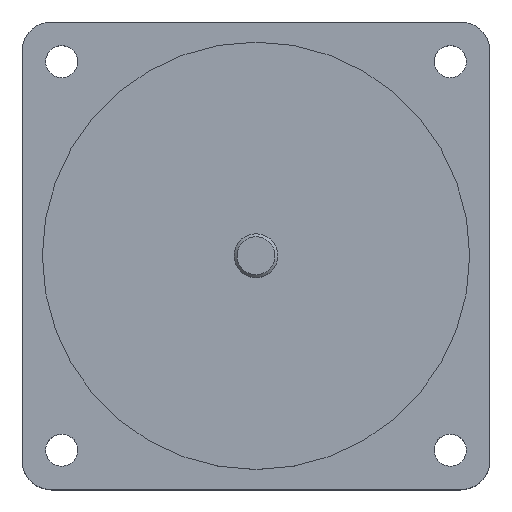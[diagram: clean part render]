
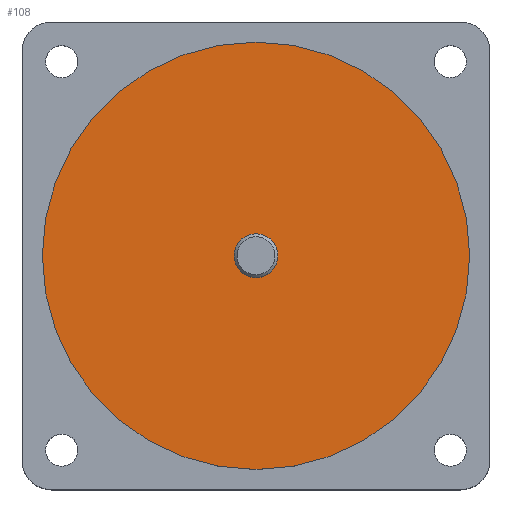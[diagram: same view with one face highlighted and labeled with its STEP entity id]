
A CAD part, top view. The second image highlights one B-rep face of the part: STEP entity #108.
In plain terms, the highlighted planar face has unit normal (0, 0, 1).
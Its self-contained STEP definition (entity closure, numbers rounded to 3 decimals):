
#4 = CARTESIAN_POINT ( 'NONE',  ( 0., 0., 1.5 ) ) ;
#82 = AXIS2_PLACEMENT_3D ( 'NONE', #399, #488, #610 ) ;
#103 = CARTESIAN_POINT ( 'NONE',  ( 3.745, 0., 1.5 ) ) ;
#108 = ADVANCED_FACE ( 'NONE', ( #627, #489 ), #273, .T. ) ;
#122 = EDGE_LOOP ( 'NONE', ( #695 ) ) ;
#123 = EDGE_CURVE ( 'NONE', #479, #479, #424, .T. ) ;
#141 = AXIS2_PLACEMENT_3D ( 'NONE', #4, #626, #193 ) ;
#156 = CARTESIAN_POINT ( 'NONE',  ( 0., 0., 1.5 ) ) ;
#172 = DIRECTION ( 'NONE',  ( 1., 0., 0. ) ) ;
#193 = DIRECTION ( 'NONE',  ( 1., 0., 0. ) ) ;
#273 = PLANE ( 'NONE',  #82 ) ;
#277 = DIRECTION ( 'NONE',  ( 0., 0., 1. ) ) ;
#288 = CARTESIAN_POINT ( 'NONE',  ( 36.55, 0., 1.5 ) ) ;
#380 = EDGE_CURVE ( 'NONE', #557, #557, #617, .T. ) ;
#399 = CARTESIAN_POINT ( 'NONE',  ( 0., 0., 1.5 ) ) ;
#408 = ORIENTED_EDGE ( 'NONE', *, *, #123, .F. ) ;
#424 = CIRCLE ( 'NONE', #648, 3.745 ) ;
#479 = VERTEX_POINT ( 'NONE', #103 ) ;
#488 = DIRECTION ( 'NONE',  ( 0., 0., 1. ) ) ;
#489 = FACE_OUTER_BOUND ( 'NONE', #122, .T. ) ;
#506 = EDGE_LOOP ( 'NONE', ( #408 ) ) ;
#557 = VERTEX_POINT ( 'NONE', #288 ) ;
#610 = DIRECTION ( 'NONE',  ( 1., 0., 0. ) ) ;
#617 = CIRCLE ( 'NONE', #141, 36.55 ) ;
#626 = DIRECTION ( 'NONE',  ( 0., 0., 1. ) ) ;
#627 = FACE_BOUND ( 'NONE', #506, .T. ) ;
#648 = AXIS2_PLACEMENT_3D ( 'NONE', #156, #277, #172 ) ;
#695 = ORIENTED_EDGE ( 'NONE', *, *, #380, .T. ) ;
